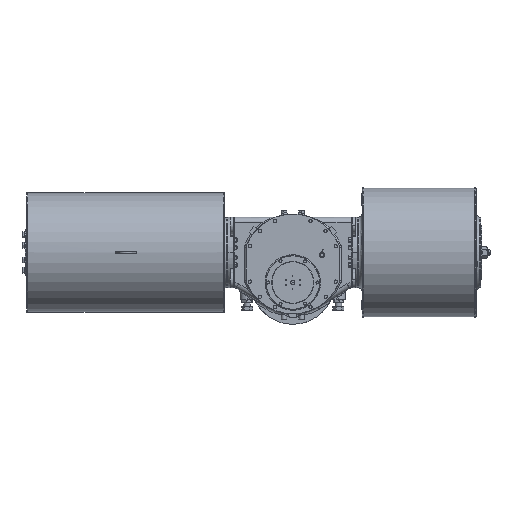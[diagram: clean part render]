
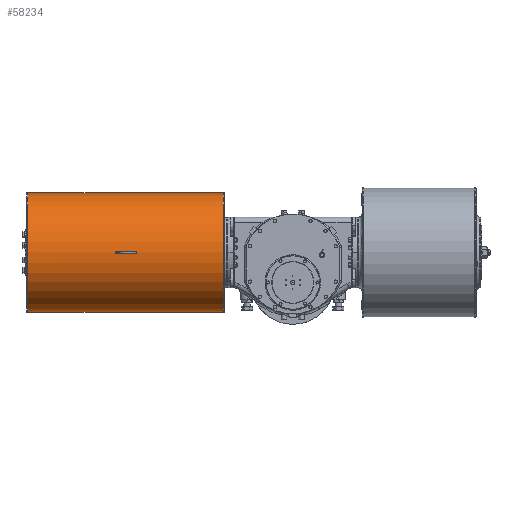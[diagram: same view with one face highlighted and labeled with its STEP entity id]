
A CAD part, top view. The second image highlights one B-rep face of the part: STEP entity #58234.
In plain terms, the highlighted cylindrical face has radius 340 mm (diameter 680 mm), a partial arc.
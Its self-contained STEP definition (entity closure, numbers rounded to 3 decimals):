
#268 = CARTESIAN_POINT ( 'NONE',  ( -1012., 171., 138. ) ) ;
#824 = CARTESIAN_POINT ( 'NONE',  ( -1508.115, -169., 138. ) ) ;
#1459 = VECTOR ( 'NONE', #16542, 1000. ) ;
#1496 = FACE_OUTER_BOUND ( 'NONE', #8916, .T. ) ;
#1914 = CYLINDRICAL_SURFACE ( 'NONE', #78132, 340. ) ;
#3830 = EDGE_CURVE ( 'NONE', #58098, #38285, #52395, .T. ) ;
#4418 = DIRECTION ( 'NONE',  ( 0., 0., 1. ) ) ;
#5612 = CIRCLE ( 'NONE', #55566, 340. ) ;
#5902 = VERTEX_POINT ( 'NONE', #60723 ) ;
#8644 = VERTEX_POINT ( 'NONE', #22993 ) ;
#8916 = EDGE_LOOP ( 'NONE', ( #39635, #28177, #36359, #13531 ) ) ;
#10260 = CARTESIAN_POINT ( 'NONE',  ( -1508.115, 511., 138. ) ) ;
#10672 = DIRECTION ( 'NONE',  ( 0., 1., 0. ) ) ;
#11674 = LINE ( 'NONE', #37131, #1459 ) ;
#12023 = CARTESIAN_POINT ( 'NONE',  ( -1012., 166., 477.963 ) ) ;
#13270 = DIRECTION ( 'NONE',  ( -1., 0., 0. ) ) ;
#13531 = ORIENTED_EDGE ( 'NONE', *, *, #27063, .F. ) ;
#14194 = AXIS2_PLACEMENT_3D ( 'NONE', #38381, #85262, #10672 ) ;
#14934 = CARTESIAN_POINT ( 'NONE',  ( -1502., 171., 138. ) ) ;
#15300 = DIRECTION ( 'NONE',  ( 0., 1., 0. ) ) ;
#15448 = VERTEX_POINT ( 'NONE', #12023 ) ;
#16009 = AXIS2_PLACEMENT_3D ( 'NONE', #46007, #73279, #4418 ) ;
#16542 = DIRECTION ( 'NONE',  ( 1., 0., 0. ) ) ;
#16858 = CIRCLE ( 'NONE', #61142, 340. ) ;
#19574 = CARTESIAN_POINT ( 'NONE',  ( -395.885, -169., 138. ) ) ;
#20215 = CARTESIAN_POINT ( 'NONE',  ( -892., 166., 477.963 ) ) ;
#21538 = EDGE_CURVE ( 'NONE', #8644, #42802, #5612, .T. ) ;
#21577 = CARTESIAN_POINT ( 'NONE',  ( -1508.115, 171., 138. ) ) ;
#21618 = DIRECTION ( 'NONE',  ( 0., 1., 0. ) ) ;
#22468 = VECTOR ( 'NONE', #62180, 1000. ) ;
#22993 = CARTESIAN_POINT ( 'NONE',  ( -892., 171., 478. ) ) ;
#23173 = ORIENTED_EDGE ( 'NONE', *, *, #84036, .T. ) ;
#25093 = DIRECTION ( 'NONE',  ( 1., 0., 0. ) ) ;
#25482 = LINE ( 'NONE', #73348, #57408 ) ;
#25631 = CARTESIAN_POINT ( 'NONE',  ( -892., 171., 138. ) ) ;
#27063 = EDGE_CURVE ( 'NONE', #69922, #5902, #11674, .T. ) ;
#28177 = ORIENTED_EDGE ( 'NONE', *, *, #37281, .T. ) ;
#28474 = CARTESIAN_POINT ( 'NONE',  ( -892., 176., 477.963 ) ) ;
#28753 = FACE_BOUND ( 'NONE', #45204, .T. ) ;
#30739 = VERTEX_POINT ( 'NONE', #824 ) ;
#32449 = EDGE_CURVE ( 'NONE', #15448, #42802, #42939, .T. ) ;
#33100 = EDGE_CURVE ( 'NONE', #15448, #68632, #16858, .T. ) ;
#34173 = DIRECTION ( 'NONE',  ( 1., 0., 0. ) ) ;
#34617 = CIRCLE ( 'NONE', #53120, 340. ) ;
#36359 = ORIENTED_EDGE ( 'NONE', *, *, #44858, .T. ) ;
#37131 = CARTESIAN_POINT ( 'NONE',  ( -1502., 511., 138. ) ) ;
#37253 = DIRECTION ( 'NONE',  ( 1., 0., 0. ) ) ;
#37281 = EDGE_CURVE ( 'NONE', #30739, #40939, #25482, .T. ) ;
#38285 = VERTEX_POINT ( 'NONE', #28474 ) ;
#38381 = CARTESIAN_POINT ( 'NONE',  ( -395.885, 171., 138. ) ) ;
#38868 = VECTOR ( 'NONE', #25093, 1000. ) ;
#39635 = ORIENTED_EDGE ( 'NONE', *, *, #83643, .T. ) ;
#40939 = VERTEX_POINT ( 'NONE', #19574 ) ;
#40953 = DIRECTION ( 'NONE',  ( 0., 0., 1. ) ) ;
#41700 = CIRCLE ( 'NONE', #16009, 340. ) ;
#42802 = VERTEX_POINT ( 'NONE', #20215 ) ;
#42939 = LINE ( 'NONE', #75139, #22468 ) ;
#44858 = EDGE_CURVE ( 'NONE', #40939, #5902, #66968, .T. ) ;
#45204 = EDGE_LOOP ( 'NONE', ( #69467, #23173, #70186, #68338, #54282, #72988 ) ) ;
#46007 = CARTESIAN_POINT ( 'NONE',  ( -1012., 171., 138. ) ) ;
#46183 = CARTESIAN_POINT ( 'NONE',  ( -892., 171., 138. ) ) ;
#46495 = AXIS2_PLACEMENT_3D ( 'NONE', #25631, #55103, #76514 ) ;
#48857 = DIRECTION ( 'NONE',  ( 1., 0., 0. ) ) ;
#51565 = DIRECTION ( 'NONE',  ( 0., -1., 0. ) ) ;
#52395 = LINE ( 'NONE', #86337, #38868 ) ;
#53120 = AXIS2_PLACEMENT_3D ( 'NONE', #21577, #48857, #15300 ) ;
#53403 = CARTESIAN_POINT ( 'NONE',  ( -1012., 176., 477.963 ) ) ;
#54282 = ORIENTED_EDGE ( 'NONE', *, *, #21538, .T. ) ;
#54431 = EDGE_CURVE ( 'NONE', #38285, #8644, #62198, .T. ) ;
#55103 = DIRECTION ( 'NONE',  ( 1., 0., 0. ) ) ;
#55566 = AXIS2_PLACEMENT_3D ( 'NONE', #46183, #37253, #51565 ) ;
#57408 = VECTOR ( 'NONE', #74227, 1000. ) ;
#58098 = VERTEX_POINT ( 'NONE', #53403 ) ;
#58234 = ADVANCED_FACE ( 'NONE', ( #28753, #1496 ), #1914, .T. ) ;
#60723 = CARTESIAN_POINT ( 'NONE',  ( -395.885, 511., 138. ) ) ;
#61142 = AXIS2_PLACEMENT_3D ( 'NONE', #268, #13270, #40953 ) ;
#62180 = DIRECTION ( 'NONE',  ( 1., 0., 0. ) ) ;
#62198 = CIRCLE ( 'NONE', #46495, 340. ) ;
#66968 = CIRCLE ( 'NONE', #14194, 340. ) ;
#68338 = ORIENTED_EDGE ( 'NONE', *, *, #54431, .T. ) ;
#68632 = VERTEX_POINT ( 'NONE', #84309 ) ;
#69467 = ORIENTED_EDGE ( 'NONE', *, *, #33100, .T. ) ;
#69922 = VERTEX_POINT ( 'NONE', #10260 ) ;
#70186 = ORIENTED_EDGE ( 'NONE', *, *, #3830, .T. ) ;
#72988 = ORIENTED_EDGE ( 'NONE', *, *, #32449, .F. ) ;
#73279 = DIRECTION ( 'NONE',  ( -1., 0., 0. ) ) ;
#73348 = CARTESIAN_POINT ( 'NONE',  ( -1502., -169., 138. ) ) ;
#74227 = DIRECTION ( 'NONE',  ( 1., 0., 0. ) ) ;
#75139 = CARTESIAN_POINT ( 'NONE',  ( -1502., 166., 477.963 ) ) ;
#76514 = DIRECTION ( 'NONE',  ( 0., -1., 0. ) ) ;
#78132 = AXIS2_PLACEMENT_3D ( 'NONE', #14934, #34173, #21618 ) ;
#83643 = EDGE_CURVE ( 'NONE', #69922, #30739, #34617, .T. ) ;
#84036 = EDGE_CURVE ( 'NONE', #68632, #58098, #41700, .T. ) ;
#84309 = CARTESIAN_POINT ( 'NONE',  ( -1012., 171., 478. ) ) ;
#85262 = DIRECTION ( 'NONE',  ( -1., 0., 0. ) ) ;
#86337 = CARTESIAN_POINT ( 'NONE',  ( -1502., 176., 477.963 ) ) ;
